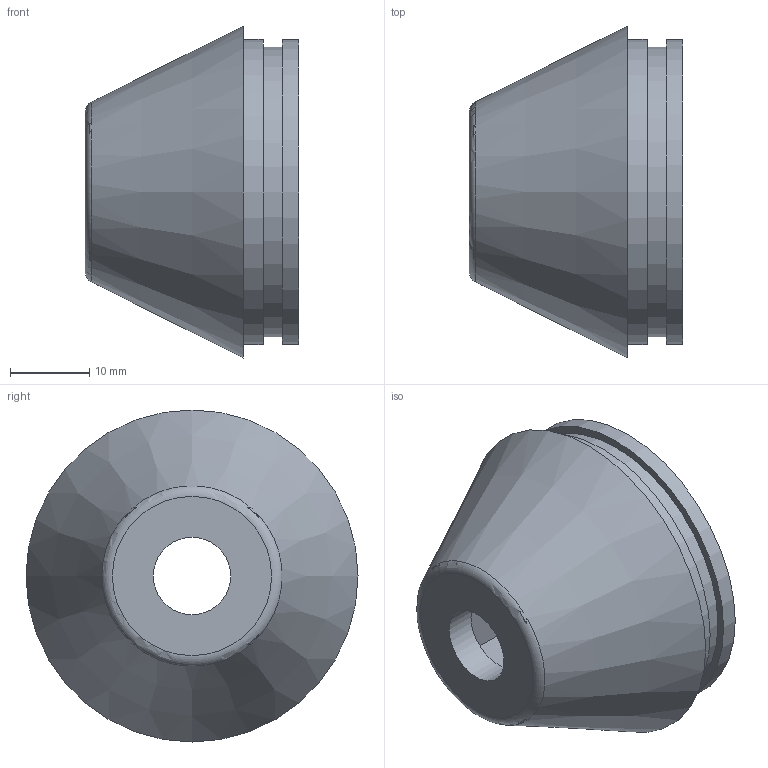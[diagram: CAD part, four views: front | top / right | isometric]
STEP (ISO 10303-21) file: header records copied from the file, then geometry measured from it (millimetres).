
FILE_DESCRIPTION(('Open CASCADE Model'),'2;1');
FILE_NAME('Open CASCADE Shape Model','2026-11-07T04:41:25',('Author'),( 'Open CASCADE'),'Open CASCADE STEP processor 8.0','build123d', 'Unknown');
FILE_SCHEMA(('AUTOMOTIVE_DESIGN { 1 0 10303 214 1 1 1 1 }'));
Length unit declared in the file: millimetre
Products named in the file (1): COMPOUND
Bounding box: 26.99 x 42 x 42 mm (x, y, z)
Volume: 8249.4 mm3; surface area: 10197.8 mm2
Topology: 1 solids, 1 shells, 44 faces, 107 edges, 71 vertices
Faces by surface type: plane 24, cylinder 17, cone 2, torus 1
Full cylindrical faces by diameter (mm): 9.8 x1, 32.6 x1, 36.6 x1, 38.6 x2
Entity records: 5292 total; most frequent: CARTESIAN_POINT 3253, DIRECTION 353, ORIENTED_EDGE 214, PCURVE 214, DEFINITIONAL_REPRESENTATION 214, LINE 137, VECTOR 137, EDGE_CURVE 107
